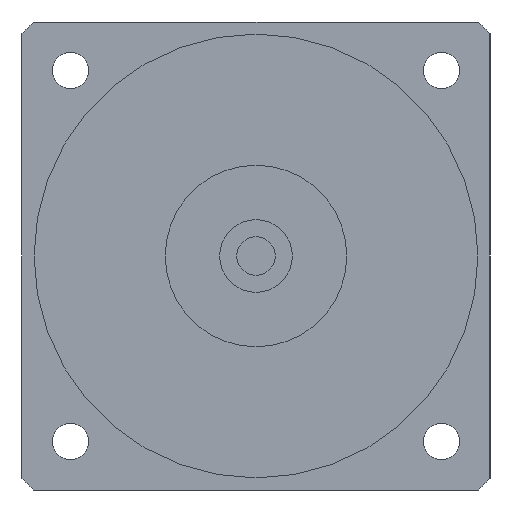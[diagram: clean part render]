
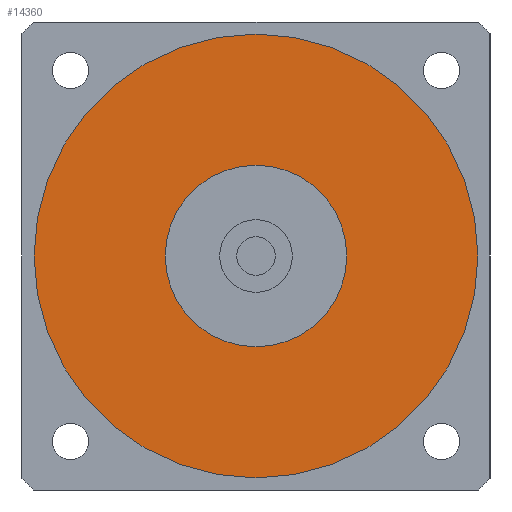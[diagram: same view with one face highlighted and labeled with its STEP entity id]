
A CAD part, left-side view. The second image highlights one B-rep face of the part: STEP entity #14360.
In plain terms, the highlighted planar face has unit normal (-1, 0, 0) as drawn and (0, 0, -1) by its records, which use the part's own axes.
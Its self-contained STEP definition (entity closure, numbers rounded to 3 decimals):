
#13780=CARTESIAN_POINT('',(55.,0.,-38.7));
#13790=VERTEX_POINT('',#13780);
#13880=CARTESIAN_POINT('',(-55.,0.,-38.7));
#13890=VERTEX_POINT('',#13880);
#13920=CARTESIAN_POINT('',(0.,0.,
-38.7));
#13930=DIRECTION('',(0.,0.,1.));
#13940=DIRECTION('',(0.,1.,0.));
#13950=AXIS2_PLACEMENT_3D('',#13920,#13930,#13940);
#13960=CIRCLE('',#13950,55.);
#13970=CARTESIAN_POINT('',(0.,55.,-38.7));
#13980=VERTEX_POINT('',#13970);
#13990=EDGE_CURVE('',#13980,#13890,#13960,.T.);
#14010=EDGE_CURVE('',#13790,#13980,#13960,.T.);
#14060=CARTESIAN_POINT('',(0.,0.,
-38.7));
#14070=DIRECTION('',(0.,0.,1.));
#14080=DIRECTION('',(-1.,0.,0.));
#14090=AXIS2_PLACEMENT_3D('',#14060,#14070,#14080);
#14100=PLANE('',#14090);
#14110=ORIENTED_EDGE('',*,*,#13990,.F.);
#14120=EDGE_CURVE('',#13890,#13790,#13960,.T.);
#14130=ORIENTED_EDGE('',*,*,#14120,.F.);
#14140=ORIENTED_EDGE('',*,*,#14010,.F.);
#14150=EDGE_LOOP('',(#14140,#14130,#14110));
#14160=FACE_OUTER_BOUND('',#14150,.T.);
#14170=CARTESIAN_POINT('',(0.,0.,
-38.7));
#14180=DIRECTION('',(0.,0.,1.));
#14190=DIRECTION('',(0.,1.,0.));
#14200=AXIS2_PLACEMENT_3D('',#14170,#14180,#14190);
#14210=CIRCLE('',#14200,22.5);
#14220=CARTESIAN_POINT('',(-22.5,0.,-38.7));
#14230=VERTEX_POINT('',#14220);
#14240=CARTESIAN_POINT('',(22.5,0.,-38.7));
#14250=VERTEX_POINT('',#14240);
#14260=EDGE_CURVE('',#14230,#14250,#14210,.T.);
#14270=ORIENTED_EDGE('',*,*,#14260,.T.);
#14280=CARTESIAN_POINT('',(0.,22.5,-38.7));
#14290=VERTEX_POINT('',#14280);
#14300=EDGE_CURVE('',#14290,#14230,#14210,.T.);
#14310=ORIENTED_EDGE('',*,*,#14300,.T.);
#14320=EDGE_CURVE('',#14250,#14290,#14210,.T.);
#14330=ORIENTED_EDGE('',*,*,#14320,.T.);
#14340=EDGE_LOOP('',(#14330,#14310,#14270));
#14350=FACE_BOUND('',#14340,.T.);
#14360=ADVANCED_FACE('',(#14160,#14350),#14100,.F.);
